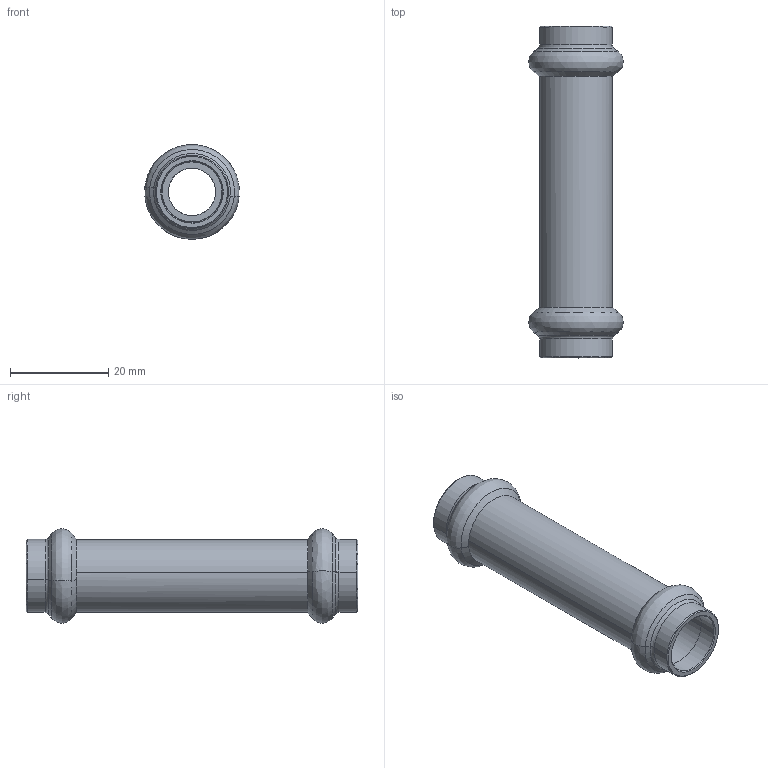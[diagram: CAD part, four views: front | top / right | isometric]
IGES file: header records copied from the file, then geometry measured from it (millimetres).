
Start section: Elysium IGES Interface
Global section: file name: C:\3d modellen sudo\C-Pr VP\SP8275V\8275VW12.igs; native system: CoCreate Modeling 17.00A  17-Jun-2010; preprocessor: CoCreate IGES_3D V2.2; author: Unknown; organization: Unknown; date: 20130129.124148; units: millimetre
Bounding box: 19.28 x 67.6 x 19.28 mm (x, y, z)
Volume: 4772.1 mm3; surface area: 6306.4 mm2
Topology: 1 solids, 1 shells, 58 faces, 126 edges, 74 vertices
Faces by surface type: bspline 58
